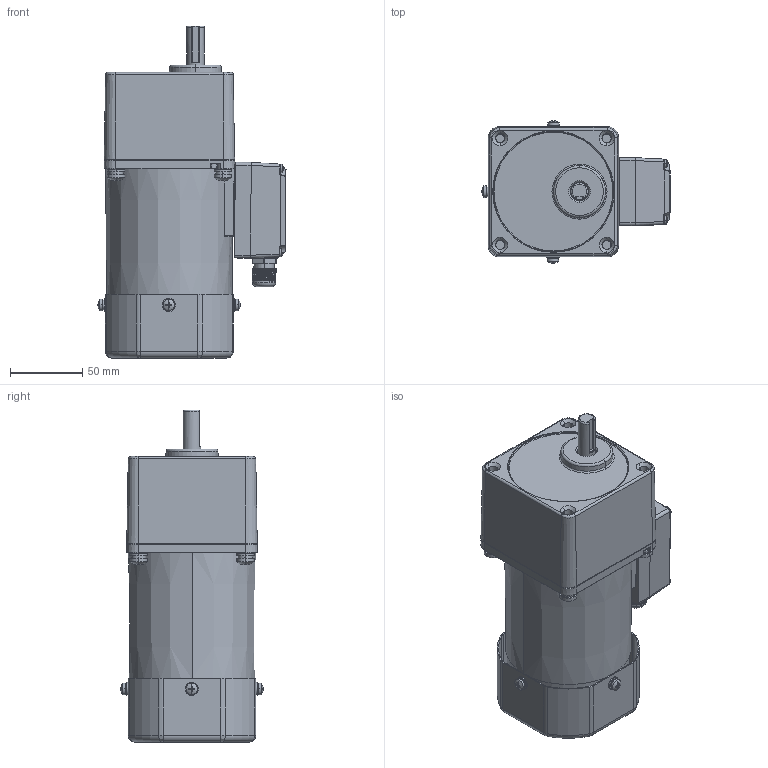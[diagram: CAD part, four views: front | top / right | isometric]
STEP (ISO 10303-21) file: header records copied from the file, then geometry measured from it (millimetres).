
FILE_DESCRIPTION (( 'STEP AP203' ), '1' );
FILE_NAME ('5IK60RGN-CFT(5GN3K-200K).STEP', '2020-04-10T00:30:43', ( 'Windows 蚚誧' ), ( '' ), 'SwSTEP 2.0', 'SolidWorks 2019', '' );
FILE_SCHEMA (( 'CONFIG_CONTROL_DESIGN' ));
Length unit declared in the file: millimetre
Products named in the file (16): M3^70TSJXHG(2)_70TSJXHG.STEP; 70TSZ; 70TSJXHG(2)^70TSJXHG.STEP; 5IK40RA-CT; 70TSJXHG.STEP; 90TSFZ; 3IK15RA-C_AF0^3ik15ra-c_asm(2)_70TSZ; 5IK60RA-CFT; 9040TSJXHJK; PRT0099^3ik15ra-c_asm(2)_70TSZ; 5GN3K‵200K; TSJXH^70TSJXHG(2)_70TSJXHG.STEP; PRT0101^3ik15ra-c_asm(2)_70TSZ; 5IK60RGN-CFT(5GN3K-200K); M14SJQ^70TSJXHG(2)_70TSJXHG.STEP; 3ik15ra-c_asm(2)^70TSZ
Assembly tree (18 placements, depth 6):
  5IK60RGN-CFT(5GN3K-200K)
    5IK60RA-CFT
      5IK40RA-CT
        9040TSJXHJK
        70TSJXHG.STEP
          70TSJXHG(2)^70TSJXHG.STEP
            TSJXH^70TSJXHG(2)_70TSJXHG.STEP
            M14SJQ^70TSJXHG(2)_70TSJXHG.STEP
            M3^70TSJXHG(2)_70TSJXHG.STEP  x4
        70TSZ
          3ik15ra-c_asm(2)^70TSZ
            3IK15RA-C_AF0^3ik15ra-c_asm(2)_70TSZ
            PRT0099^3ik15ra-c_asm(2)_70TSZ
            PRT0101^3ik15ra-c_asm(2)_70TSZ
      90TSFZ
    5GN3K‵200K
Bounding box: 129.69 x 98.11 x 229 mm (x, y, z)
Volume: 747545.2 mm3; surface area: 212369.5 mm2
Topology: 54 solids, 55 shells, 2377 faces, 6119 edges, 3883 vertices
Faces by surface type: cylinder 869, plane 675, cone 552, torus 161, sphere 86, bspline 34
Entity records: 69086 total; most frequent: CARTESIAN_POINT 17888, DIRECTION 11050, ORIENTED_EDGE 10166, EDGE_CURVE 5083, AXIS2_PLACEMENT_3D 4541, VERTEX_POINT 3263, CIRCLE 2558, EDGE_LOOP 2138
